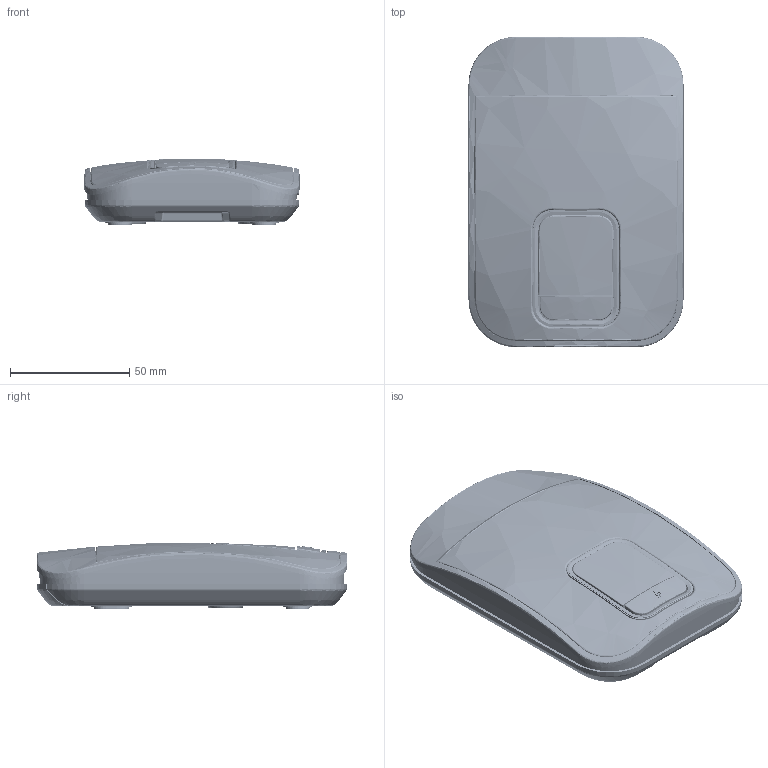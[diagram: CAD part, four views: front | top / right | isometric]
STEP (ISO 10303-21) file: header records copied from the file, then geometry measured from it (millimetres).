
FILE_DESCRIPTION((''),'2;1');
FILE_NAME('ASSY_BOUNDARY_FULL_20211010_ASM','2024-03-30T17:32:42',('DELL'),(''),'CREO PARAMETRIC BY PTC INC, 2022073','CREO PARAMETRIC BY PTC INC, 2022073','');
FILE_SCHEMA(('CONFIG_CONTROL_DESIGN'));
Length unit declared in the file: millimetre
Products named in the file (71): BODY76; MAGNET; BODY84; BODY88; MAGNET__1_; BODY90; BODY93; SLIDE_BTN; BODY96; BODY97; BODY101; BODY102; BODY107; BODY111; DISPLAY; BODY116; BODY119; B2B_CONN__2_; WIRE; COIL; BODY125; BODY127; BODY130; BODY131; BODY132; LIGHTPIPE_20210305; BRACKET_20210406; BOTTOM; LEVE0CFCAC1AR85S_1; MUTE_20210305; DISPLAY_LENS_20210305; TOP_20210406; GRILLE_20210305; BOUNDARY_FELT; SUB_BOUNDARY_FRONT_ASM; MIC_CARDIOID; MIC_OMNI; BODY72; SLIDE_SWTCH; PCB_MAIN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
Assembly tree (71 placements, depth 4):
  ASSY_BOUNDARY_FULL_20211010_ASM
    LEVE0CFCAC1AR85S_ASM
      BODY76
      MAGNET
      BODY84
      BODY88
      MAGNET__1_
      BODY90
      BODY93
      SLIDE_BTN
      BODY96
      BODY97
      BODY101
      BODY102
      BODY107
      BODY111
      DISPLAY
      BODY116
      BODY119
      B2B_CONN__2_
      WIRE  x2
      COIL
      BODY125
      BODY127
      BODY130
      BODY131
      BODY132
      LIGHTPIPE_20210305
      BRACKET_20210406
      BOTTOM
      LEVE0CFCAC1AR85S_1
      SUB_BOUNDARY_FRONT_ASM
        MUTE_20210305
        DISPLAY_LENS_20210305
        TOP_20210406
        GRILLE_20210305
        BOUNDARY_FELT
      MAIN_PCBA_ASM
        MIC_CARDIOID
        MIC_OMNI
        BODY72
        SLIDE_SWTCH
        PCB_MAIN
        BODY100
        LED_20210305
        TACT_SWTCH
        BODY151
        4-PIN_CHARGER
        BODY152
        BODY99
        BODY148
        BODY149
      ATN_PCBA_ASM
        BODY85
        PCB_ANTENNA
        ANTENNA
        B2B_CONN
      USB_PCBA_ASM
        BODY115
        PCB_TYPE_C
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Bounding box: 90 x 130 x 27.73 mm (x, y, z)
Volume: 108968 mm3; surface area: 153810.9 mm2
Topology: 63 solids, 76 shells, 9392 faces, 25961 edges, 17070 vertices
Faces by surface type: plane 5943, cylinder 1515, extrusion 872, bspline 528, cone 314, torus 183, sphere 31, revolution 6
Entity records: 349261 total; most frequent: CARTESIAN_POINT 115518, ORIENTED_EDGE 51705, DIRECTION 42116, EDGE_CURVE 25927, VECTOR 18194, LINE 17322, VERTEX_POINT 17057, AXIS2_PLACEMENT_3D 11958
